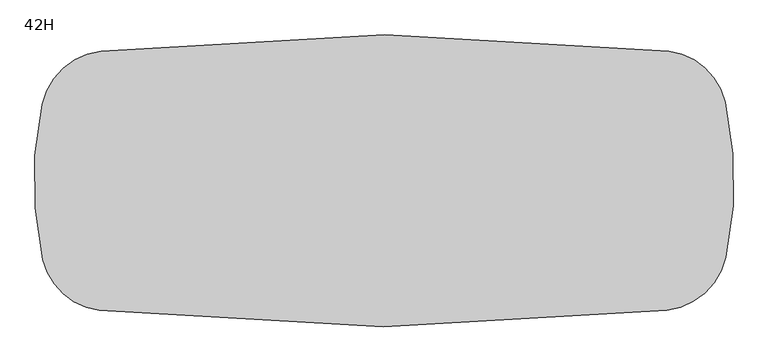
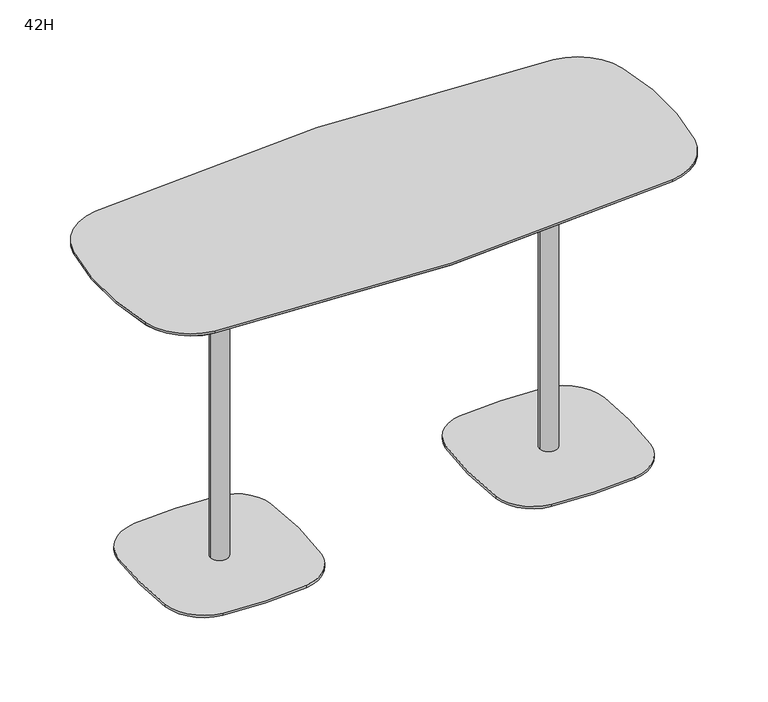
"""IFC4 building model written with IfcOpenShell, lengths in millimetres: furniture geometry, Steelcase Coalesse - Enea Lottus - Table - Rectangular : 42H."""

from ifc_helpers import new_model, si_unit, point, frame, frame_2d, origin, origin_with_axes, place, context, project, spatial, polyline, circle_curve, trimmed, segment, composite_curve, outline, extrude, source, transform, mapped, element, save
from ifc_brep_helpers import plane_surface, cylinder_surface, revolved_surface, advanced_brep


def furniture_42h_85d60476(model_context):
    return source(origin(), model_context, "Body", "SolidModel", [
        advanced_brep(
        [(533.6899315, 0.0079283, 1030.5956207), (533.6899315, 29.1924887, 1030.5956207), (533.6899315, -29.1766322, 1030.5956207), (533.6899315, 176.2649386, 1050.6538925), (533.6899315, -176.2490821, 1050.6538925), (533.6899315, 176.2649386, 1054.0282142), (533.6899315, -176.2490821, 1054.0282142), (533.6899315, 0.0079283, 1054.0282142)],
        [
            (0, 1),
            (1, 2, circle_curve(frame((533.6899315, 0.0079283, 1030.5956207), z_axis=(0.0, 0.0, -1.0), x_axis=(0.0, 1.0, 0.0)), 29.1845605)),
            (2, 0),
            (2, 1, circle_curve(frame((533.6899315, 0.0079283, 1030.5956207), z_axis=(0.0, 0.0, -1.0), x_axis=(0.0, 1.0, 0.0)), 29.1845605)),
            (1, 3),
            (3, 4, circle_curve(frame((533.6899315, 0.0079283, 1050.6538925), z_axis=(0.0, 0.0, -1.0), x_axis=(0.0, 1.0, 0.0)), 176.2570104)),
            (4, 2),
            (4, 3, circle_curve(frame((533.6899315, 0.0079283, 1050.6538925), z_axis=(0.0, 0.0, -1.0), x_axis=(0.0, 1.0, 0.0)), 176.2570104)),
            (3, 5),
            (5, 6, circle_curve(frame((533.6899315, 0.0079283, 1054.0282142), z_axis=(0.0, 0.0, -1.0), x_axis=(0.0, 1.0, 0.0)), 176.2570104)),
            (6, 4),
            (6, 5, circle_curve(frame((533.6899315, 0.0079283, 1054.0282142), z_axis=(0.0, 0.0, -1.0), x_axis=(0.0, 1.0, 0.0)), 176.2570104)),
            (5, 7),
            (7, 6),
        ],
        [
            plane_surface(frame((533.6899315, 0.0079283, 1030.5956207), z_axis=(0.0, 0.0, -1.0), x_axis=(0.0, 1.0, 0.0))),
            revolved_surface(polyline([(533.6899315, 176.2649386, 1050.6538925), (533.6899315, 29.1924887, 1030.5956207)]), (533.6899315, 0.0079283, 1050.0176504), (0.0, 0.0, -1.0)),
            cylinder_surface(frame((533.6899315, 0.0079283, 1050.0176504), z_axis=(0.0, 0.0, -1.0), x_axis=(0.0, 1.0, 0.0)), 176.2570104),
            plane_surface(frame((533.6899315, 0.0079283, 1054.0282142), z_axis=(0.0, 0.0, 1.0), x_axis=(0.0, 1.0, 0.0))),
        ],
        [
            (0, [[1, 2, 3]]),
            (0, [[-3, 4, -1]]),
            (1, [[-2, 5, 6, 7]]),
            (1, [[-4, -7, 8, -5]]),
            (2, [[-6, 9, 10, 11]]),
            (2, [[-8, -11, 12, -9]]),
            (3, [[-10, 13, 14]]),
            (3, [[-12, -14, -13]]),
        ],
    ),
        advanced_brep(
        [(-533.2930565, -29.5735072, 1030.5956207), (-533.2930565, 28.7956137, 1030.5956207), (-533.2930565, -0.3889467, 1030.5956207), (-533.2930565, -176.6459571, 1050.6538925), (-533.2930565, 175.8680636, 1050.6538925), (-533.2930565, -176.6459571, 1054.0282142), (-533.2930565, 175.8680636, 1054.0282142), (-533.2930565, -0.3889467, 1054.0282142)],
        [
            (0, 1, circle_curve(frame((-533.2930565, -0.3889467, 1030.5956207), z_axis=(0.0, 0.0, -1.0), x_axis=(0.0, 1.0, 0.0)), 29.1845605)),
            (1, 2),
            (2, 0),
            (1, 0, circle_curve(frame((-533.2930565, -0.3889467, 1030.5956207), z_axis=(0.0, 0.0, -1.0), x_axis=(0.0, 1.0, 0.0)), 29.1845605)),
            (3, 4, circle_curve(frame((-533.2930565, -0.3889467, 1050.6538925), z_axis=(0.0, 0.0, -1.0), x_axis=(0.0, 1.0, 0.0)), 176.2570104)),
            (4, 1),
            (0, 3),
            (4, 3, circle_curve(frame((-533.2930565, -0.3889467, 1050.6538925), z_axis=(0.0, 0.0, -1.0), x_axis=(0.0, 1.0, 0.0)), 176.2570104)),
            (5, 6, circle_curve(frame((-533.2930565, -0.3889467, 1054.0282142), z_axis=(0.0, 0.0, -1.0), x_axis=(0.0, 1.0, 0.0)), 176.2570104)),
            (6, 4),
            (3, 5),
            (6, 5, circle_curve(frame((-533.2930565, -0.3889467, 1054.0282142), z_axis=(0.0, 0.0, -1.0), x_axis=(0.0, 1.0, 0.0)), 176.2570104)),
            (7, 6),
            (5, 7),
        ],
        [
            plane_surface(frame((-533.2930565, -0.3889467, 1030.5956207), z_axis=(0.0, 0.0, -1.0), x_axis=(0.0, 1.0, 0.0))),
            revolved_surface(polyline([(-533.2930565, 28.7956137, 1030.5956207), (-533.2930565, 175.8680636, 1050.6538925)]), (-533.2930565, -0.3889467, 1050.0176504), (0.0, 0.0, 1.0)),
            cylinder_surface(frame((-533.2930565, -0.3889467, 1050.0176504), z_axis=(0.0, 0.0, 1.0), x_axis=(0.0, 1.0, 0.0)), 176.2570104),
            plane_surface(frame((-533.2930565, -0.3889467, 1054.0282142), z_axis=(0.0, 0.0, 1.0), x_axis=(0.0, 1.0, 0.0))),
        ],
        [
            (0, [[1, 2, 3]]),
            (0, [[4, -3, -2]]),
            (1, [[5, 6, -1, 7]]),
            (1, [[8, -7, -4, -6]]),
            (2, [[9, 10, -5, 11]]),
            (2, [[12, -11, -8, -10]]),
            (3, [[13, -9, 14]]),
            (3, [[-14, -12, -13]]),
        ],
    ),
        extrude(outline(composite_curve([segment(trimmed(circle_curve(frame_2d((714.0146629, 180.1091408)), 14.530327), [point((699.4843358, 180.1091408))], [point((728.5449899, 180.1091408))], False, "CARTESIAN"), True, "CONTINUOUS"), segment(trimmed(circle_curve(frame_2d((714.0146629, 180.1091408)), 14.530327), [point((728.5449899, 180.1091408))], [point((699.4843358, 180.1091408))], False, "CARTESIAN"), True, "CONTINUOUS")], self_intersect=False)), origin_with_axes(), (0.0, 0.0, 1.0), 12.0681503),
        extrude(outline(composite_curve([segment(trimmed(circle_curve(frame_2d((353.3678597, 180.1091408)), 14.530327), [point((338.8375326, 180.1091408))], [point((367.8981867, 180.1091408))], False, "CARTESIAN"), True, "CONTINUOUS"), segment(trimmed(circle_curve(frame_2d((353.3678597, 180.1091408)), 14.530327), [point((367.8981867, 180.1091408))], [point((338.8375326, 180.1091408))], False, "CARTESIAN"), True, "CONTINUOUS")], self_intersect=False)), origin_with_axes(), (0.0, 0.0, 1.0), 12.0681503),
        extrude(outline(composite_curve([segment(trimmed(circle_curve(frame_2d((714.0146629, -180.1091408)), 14.530327), [point((699.4843358, -180.1091408))], [point((728.5449899, -180.1091408))], False, "CARTESIAN"), True, "CONTINUOUS"), segment(trimmed(circle_curve(frame_2d((714.0146629, -180.1091408)), 14.530327), [point((728.5449899, -180.1091408))], [point((699.4843358, -180.1091408))], False, "CARTESIAN"), True, "CONTINUOUS")], self_intersect=False)), origin_with_axes(), (0.0, 0.0, 1.0), 12.0681503),
        extrude(outline(composite_curve([segment(trimmed(circle_curve(frame_2d((353.3678597, -180.1091408)), 14.530327), [point((338.8375326, -180.1091408))], [point((367.8981867, -180.1091408))], False, "CARTESIAN"), True, "CONTINUOUS"), segment(trimmed(circle_curve(frame_2d((353.3678597, -180.1091408)), 14.530327), [point((367.8981867, -180.1091408))], [point((338.8375326, -180.1091408))], False, "CARTESIAN"), True, "CONTINUOUS")], self_intersect=False)), origin_with_axes(), (0.0, 0.0, 1.0), 12.0681503),
        extrude(outline(composite_curve([segment(trimmed(circle_curve(frame_2d((653.6418748, -119.1450965)), 133.222342), [point((786.0221834, -134.099905))], [point((668.3067607, -251.5578358))], False, "CARTESIAN"), True, "CONTINUOUS"), segment(trimmed(circle_curve(frame_2d((533.6074129, 964.6745761)), 1223.6687436), [point((668.3067607, -251.5578358))], [point((397.528708, -251.4042783))], False, "CARTESIAN"), True, "CONTINUOUS"), segment(trimmed(circle_curve(frame_2d((411.982862, -122.2335093)), 129.97696), [point((397.528708, -251.4042783))], [point((282.9704132, -138.0385142))], False, "CARTESIAN"), True, "CONTINUOUS"), segment(trimmed(circle_curve(frame_2d((1412.2891802, 0.3116127)), 1137.7616777), [point((282.9704132, -138.0385142))], [point((283.9914799, 146.7559187))], False, "CARTESIAN"), True, "CONTINUOUS"), segment(trimmed(circle_curve(frame_2d((404.4486749, 131.1215074)), 121.4675703), [point((283.9914799, 146.7559187))], [point((391.3529548, 251.8810733))], False, "CARTESIAN"), True, "CONTINUOUS"), segment(trimmed(circle_curve(frame_2d((531.1125259, -1036.8838838)), 1296.3208909), [point((391.3529548, 251.8810733))], [point((663.5285015, 252.6562907))], False, "CARTESIAN"), True, "CONTINUOUS"), segment(trimmed(circle_curve(frame_2d((649.3276784, 114.3608031)), 139.022679), [point((663.5285015, 252.6562907))], [point((787.6552382, 128.2457396))], False, "CARTESIAN"), True, "CONTINUOUS"), segment(trimmed(circle_curve(frame_2d((-442.8831067, 4.7277163)), 1236.7220061), [point((787.6552382, 128.2457396))], [point((786.0221834, -134.099905))], False, "CARTESIAN"), True, "CONTINUOUS")], self_intersect=False)), frame((0.0, 0.0, 12.0681503), z_axis=(0.0, 0.0, 1.0), x_axis=(1.0, 0.0, 0.0)), (0.0, 0.0, 1.0), 7.874),
        extrude(outline(composite_curve([segment(trimmed(circle_curve(frame_2d((533.6909706, 0.2349542)), 29.1845605), [point((504.5064102, 0.2349542))], [point((562.8755311, 0.2349542))], False, "CARTESIAN"), True, "CONTINUOUS"), segment(trimmed(circle_curve(frame_2d((533.6909706, 0.2349542)), 29.1845605), [point((562.8755311, 0.2349542))], [point((504.5064102, 0.2349542))], False, "CARTESIAN"), True, "CONTINUOUS")], self_intersect=False)), frame((0.0, 0.0, 19.9421503), z_axis=(0.0, 0.0, 1.0), x_axis=(1.0, 0.0, 0.0)), (0.0, 0.0, 1.0), 1010.6534704),
        advanced_brep(
        [(739.347506, -338.2744697, 1059.247009), (892.4732941, -200.1677811, 1059.247009), (891.2541739, 205.5853505, 1059.247009), (743.9458752, 337.7402913, 1059.247009), (-739.2545007, 338.4789717, 1059.247009), (-892.4186272, 200.414007, 1059.247009), (-891.1980236, -205.8312645, 1059.247009), (-743.8530353, -337.9460632, 1059.247009), (737.8865789, -325.6587774, 1054.0282142), (-742.3865217, -325.3310191, 1054.0282142), (-878.8170663, -203.0025018, 1054.0282142), (-880.020895, 197.6596943, 1054.0282142), (-737.7970634, 325.8628758, 1054.0282142), (742.4758721, 325.1256533, 1054.0282142), (878.872445, 202.7599674, 1054.0282142), (880.0748107, -197.4168523, 1054.0282142)],
        [
            (0, 1, circle_curve(frame((718.8945265, -161.6547777, 1059.247009), z_axis=(0.0, 0.0, 1.0), x_axis=(0.1150336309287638, -0.9933615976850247, 0.0)), 177.8)),
            (1, 2, circle_curve(frame((-9.6863319, 0.0, 1059.247009), z_axis=(0.0, 0.0, 1.0), x_axis=(0.9762585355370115, -0.2166085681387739, 0.0)), 924.0990917)),
            (2, 3, circle_curve(frame((724.1008339, 167.4426787, 1059.247009), z_axis=(0.0, 0.0, 1.0), x_axis=(0.9749392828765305, 0.22247110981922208, 0.0)), 171.45)),
            (3, 4, circle_curve(frame((-0.8375458, -6053.5206925, 1059.247009), z_axis=(0.0, 0.0, 1.0), x_axis=(0.11574827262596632, 0.9932785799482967, 0.0)), 6434.5100285)),
            (4, 5, circle_curve(frame((-718.8503777, 161.8536288, 1059.247009), z_axis=(0.0, 0.0, 1.0), x_axis=(-0.11475884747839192, 0.9933933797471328, 0.0)), 177.8)),
            (5, 6, circle_curve(frame((9.6863319, 0.0, 1059.247009), z_axis=(0.0, 0.0, 1.0), x_axis=(-0.9761993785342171, 0.21687501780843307, 0.0)), 924.0990917)),
            (6, 7, circle_curve(frame((-724.0551012, -167.6429678, 1059.247009), z_axis=(0.0, 0.0, 1.0), x_axis=(-0.9748785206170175, -0.2227372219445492, 0.0)), 171.45)),
            (7, 0, circle_curve(frame((-0.8375458, 6053.5206925, 1059.247009), z_axis=(0.0, 0.0, 1.0), x_axis=(-0.11547351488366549, -0.99331055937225, 0.0)), 6434.5100285)),
            (8, 9, circle_curve(frame((-0.8375458, 6053.5206925, 1054.0282142), z_axis=(0.0, 0.0, -1.0), x_axis=(-0.11547351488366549, -0.99331055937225, 0.0)), 6421.8100285)),
            (9, 10, circle_curve(frame((-724.0551012, -167.6429678, 1054.0282142), z_axis=(0.0, 0.0, -1.0), x_axis=(-0.9748785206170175, -0.2227372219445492, 0.0)), 158.75)),
            (10, 11, circle_curve(frame((9.6863319, 0.0, 1054.0282142), z_axis=(0.0, 0.0, -1.0), x_axis=(-0.9761993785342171, 0.21687501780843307, 0.0)), 911.3990917)),
            (11, 12, circle_curve(frame((-718.8503777, 161.8536288, 1054.0282142), z_axis=(0.0, 0.0, -1.0), x_axis=(-0.11475884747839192, 0.9933933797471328, 0.0)), 165.1)),
            (12, 13, circle_curve(frame((-0.8375458, -6053.5206925, 1054.0282142), z_axis=(0.0, 0.0, -1.0), x_axis=(0.11574827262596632, 0.9932785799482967, 0.0)), 6421.8100285)),
            (13, 14, circle_curve(frame((724.1008339, 167.4426787, 1054.0282142), z_axis=(0.0, 0.0, -1.0), x_axis=(0.9749392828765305, 0.22247110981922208, 0.0)), 158.75)),
            (14, 15, circle_curve(frame((-9.6863319, 0.0, 1054.0282142), z_axis=(0.0, 0.0, -1.0), x_axis=(0.9762585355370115, -0.2166085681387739, 0.0)), 911.3990917)),
            (15, 8, circle_curve(frame((718.8945265, -161.6547777, 1054.0282142), z_axis=(0.0, 0.0, -1.0), x_axis=(0.1150336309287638, -0.9933615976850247, 0.0)), 165.1)),
            (15, 1),
            (0, 8),
            (14, 2),
            (13, 3),
            (12, 4),
            (11, 5),
            (10, 6),
            (9, 7),
        ],
        [
            plane_surface(frame((0.0370828, -0.0001197, 1059.247009), z_axis=(0.0, 0.0, 1.0), x_axis=(-0.9932785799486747, 0.11574827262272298, 0.0))),
            plane_surface(frame((0.03602, -0.00012, 1054.0282142), z_axis=(0.0, 0.0, -1.0), x_axis=(-0.9932785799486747, 0.11574827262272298, 0.0))),
            revolved_surface(polyline([(880.074810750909, -197.4168522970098, 1054.0282142), (892.4732941, -200.1677811, 1059.247009)]), (718.8945265, -161.6547777, 986.1838815), (0.0, 0.0, 1.0)),
            revolved_surface(polyline([(878.8724450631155, 202.75996741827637, 1054.0282142), (891.2541739, 205.5853505, 1059.247009)]), (-9.6863319, 0.0, 679.5081463), (0.0, 0.0, 1.0)),
            revolved_surface(polyline([(742.4758721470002, 325.12565338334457, 1054.0282142), (743.9458752, 337.7402913, 1059.247009)]), (724.1008339, 167.4426787, 988.7932789), (0.0, 0.0, 1.0)),
            revolved_surface(polyline([(-737.797063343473, 325.8628758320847, 1054.0282142), (-739.2545007, 338.47897170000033, 1059.2470090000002)]), (-0.8375458, -6053.5206925, -1584.8780007), (0.0, 0.0, 1.0)),
            revolved_surface(polyline([(-880.020895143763, 197.65969428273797, 1054.0282142), (-892.4186272, 200.414007, 1059.247009)]), (-718.8503777, 161.8536288, 986.1838815), (0.0, 0.0, 1.0)),
            revolved_surface(polyline([(-878.8170664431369, -203.00250179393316, 1054.0282142), (-891.1980236, -205.8312645, 1059.247009)]), (9.6863319, 0.0, 679.5081463), (0.0, 0.0, 1.0)),
            revolved_surface(polyline([(-742.3865216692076, -325.331019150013, 1054.0282142), (-743.8530353, -337.9460632, 1059.247009)]), (-724.0551012, -167.6429678, 988.7932789), (0.0, 0.0, 1.0)),
            revolved_surface(polyline([(737.8865788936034, -325.6587774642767, 1054.0282142), (739.347506, -338.2744696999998, 1059.2470090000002)]), (-0.8375458, 6053.5206925, -1584.8780007), (0.0, 0.0, 1.0)),
        ],
        [
            (0, [[1, 2, 3, 4, 5, 6, 7, 8]]),
            (1, [[9, 10, 11, 12, 13, 14, 15, 16]]),
            (2, [[-16, 17, -1, 18]]),
            (3, [[-15, 19, -2, -17]]),
            (4, [[-14, 20, -3, -19]]),
            (5, [[-13, 21, -4, -20]]),
            (6, [[-12, 22, -5, -21]]),
            (7, [[-11, 23, -6, -22]]),
            (8, [[-10, 24, -7, -23]]),
            (9, [[-9, -18, -8, -24]]),
        ],
    ),
        extrude(outline(composite_curve([segment(trimmed(circle_curve(frame_2d((9.6863319, 0.0)), 924.0990917), [point((-891.1980236, -205.8312645))], [point((-892.4186272, 200.414007))], False, "CARTESIAN"), True, "CONTINUOUS"), segment(trimmed(circle_curve(frame_2d((-718.8503777, 161.8536288)), 177.8), [point((-892.4186272, 200.414007))], [point((-739.2545007, 338.4789717))], False, "CARTESIAN"), True, "CONTINUOUS"), segment(trimmed(circle_curve(frame_2d((-0.8375458, -6053.5206925)), 6434.5100285), [point((-739.2545007, 338.4789717))], [point((743.9458752, 337.7402913))], False, "CARTESIAN"), True, "CONTINUOUS"), segment(trimmed(circle_curve(frame_2d((724.1008339, 167.4426787)), 171.45), [point((743.9458752, 337.7402913))], [point((891.2541739, 205.5853505))], False, "CARTESIAN"), True, "CONTINUOUS"), segment(trimmed(circle_curve(frame_2d((-9.6863319, 0.0)), 924.0990917), [point((891.2541739, 205.5853505))], [point((892.4732941, -200.1677811))], False, "CARTESIAN"), True, "CONTINUOUS"), segment(trimmed(circle_curve(frame_2d((718.8945265, -161.6547777)), 177.8), [point((892.4732941, -200.1677811))], [point((739.347506, -338.2744697))], False, "CARTESIAN"), True, "CONTINUOUS"), segment(trimmed(circle_curve(frame_2d((-0.8375458, 6053.5206925)), 6434.5100285), [point((739.347506, -338.2744697))], [point((-743.8530353, -337.9460632))], False, "CARTESIAN"), True, "CONTINUOUS"), segment(trimmed(circle_curve(frame_2d((-724.0551012, -167.6429678)), 171.45), [point((-743.8530353, -337.9460632))], [point((-891.1980236, -205.8312645))], False, "CARTESIAN"), True, "CONTINUOUS")], self_intersect=False)), frame((0.0, 0.0, 1059.247009), z_axis=(0.0, 0.0, 1.0), x_axis=(1.0, 0.0, 0.0)), (0.0, 0.0, 1.0), 7.552991),
        extrude(outline(composite_curve([segment(trimmed(circle_curve(frame_2d((-714.0146629, 180.1091408)), 14.530327), [point((-699.4843358, 180.1091408))], [point((-728.5449899, 180.1091408))], False, "CARTESIAN"), True, "CONTINUOUS"), segment(trimmed(circle_curve(frame_2d((-714.0146629, 180.1091408)), 14.530327), [point((-728.5449899, 180.1091408))], [point((-699.4843358, 180.1091408))], False, "CARTESIAN"), True, "CONTINUOUS")], self_intersect=False)), origin_with_axes(), (0.0, 0.0, 1.0), 12.0681503),
        extrude(outline(composite_curve([segment(trimmed(circle_curve(frame_2d((-353.3678597, 180.1091408)), 14.530327), [point((-338.8375326, 180.1091408))], [point((-367.8981867, 180.1091408))], False, "CARTESIAN"), True, "CONTINUOUS"), segment(trimmed(circle_curve(frame_2d((-353.3678597, 180.1091408)), 14.530327), [point((-367.8981867, 180.1091408))], [point((-338.8375326, 180.1091408))], False, "CARTESIAN"), True, "CONTINUOUS")], self_intersect=False)), origin_with_axes(), (0.0, 0.0, 1.0), 12.0681503),
        extrude(outline(composite_curve([segment(trimmed(circle_curve(frame_2d((-714.0146629, -180.1091408)), 14.530327), [point((-699.4843358, -180.1091408))], [point((-728.5449899, -180.1091408))], False, "CARTESIAN"), True, "CONTINUOUS"), segment(trimmed(circle_curve(frame_2d((-714.0146629, -180.1091408)), 14.530327), [point((-728.5449899, -180.1091408))], [point((-699.4843358, -180.1091408))], False, "CARTESIAN"), True, "CONTINUOUS")], self_intersect=False)), origin_with_axes(), (0.0, 0.0, 1.0), 12.0681503),
        extrude(outline(composite_curve([segment(trimmed(circle_curve(frame_2d((-353.3678597, -180.1091408)), 14.530327), [point((-338.8375326, -180.1091408))], [point((-367.8981867, -180.1091408))], False, "CARTESIAN"), True, "CONTINUOUS"), segment(trimmed(circle_curve(frame_2d((-353.3678597, -180.1091408)), 14.530327), [point((-367.8981867, -180.1091408))], [point((-338.8375326, -180.1091408))], False, "CARTESIAN"), True, "CONTINUOUS")], self_intersect=False)), origin_with_axes(), (0.0, 0.0, 1.0), 12.0681503),
        extrude(outline(composite_curve([segment(trimmed(circle_curve(frame_2d((442.8831067, 4.7277163)), 1236.7220061), [point((-786.0221834, -134.099905))], [point((-787.6552382, 128.2457396))], False, "CARTESIAN"), True, "CONTINUOUS"), segment(trimmed(circle_curve(frame_2d((-649.3276784, 114.3608031)), 139.022679), [point((-787.6552382, 128.2457396))], [point((-663.5285015, 252.6562907))], False, "CARTESIAN"), True, "CONTINUOUS"), segment(trimmed(circle_curve(frame_2d((-531.1125259, -1036.8838838)), 1296.3208909), [point((-663.5285015, 252.6562907))], [point((-391.3529548, 251.8810733))], False, "CARTESIAN"), True, "CONTINUOUS"), segment(trimmed(circle_curve(frame_2d((-404.4486749, 131.1215074)), 121.4675703), [point((-391.3529548, 251.8810733))], [point((-283.9914799, 146.7559187))], False, "CARTESIAN"), True, "CONTINUOUS"), segment(trimmed(circle_curve(frame_2d((-1412.2891802, 0.3116127)), 1137.7616777), [point((-283.9914799, 146.7559187))], [point((-282.9704132, -138.0385142))], False, "CARTESIAN"), True, "CONTINUOUS"), segment(trimmed(circle_curve(frame_2d((-411.982862, -122.2335093)), 129.97696), [point((-282.9704132, -138.0385142))], [point((-397.528708, -251.4042783))], False, "CARTESIAN"), True, "CONTINUOUS"), segment(trimmed(circle_curve(frame_2d((-533.6074129, 964.6745761)), 1223.6687436), [point((-397.528708, -251.4042783))], [point((-668.3067607, -251.5578358))], False, "CARTESIAN"), True, "CONTINUOUS"), segment(trimmed(circle_curve(frame_2d((-653.6418748, -119.1450965)), 133.222342), [point((-668.3067607, -251.5578358))], [point((-786.0221834, -134.099905))], False, "CARTESIAN"), True, "CONTINUOUS")], self_intersect=False)), frame((0.0, 0.0, 12.0681503), z_axis=(0.0, 0.0, 1.0), x_axis=(1.0, 0.0, 0.0)), (0.0, 0.0, 1.0), 7.874),
        extrude(outline(composite_curve([segment(trimmed(circle_curve(frame_2d((-533.6909706, 0.2349542)), 29.1845605), [point((-504.5064102, 0.2349542))], [point((-562.8755311, 0.2349542))], False, "CARTESIAN"), True, "CONTINUOUS"), segment(trimmed(circle_curve(frame_2d((-533.6909706, 0.2349542)), 29.1845605), [point((-562.8755311, 0.2349542))], [point((-504.5064102, 0.2349542))], False, "CARTESIAN"), True, "CONTINUOUS")], self_intersect=False)), frame((0.0, 0.0, 19.9421503), z_axis=(0.0, 0.0, 1.0), x_axis=(1.0, 0.0, 0.0)), (0.0, 0.0, 1.0), 1010.6534704),
    ])


if __name__ == "__main__":
    model = new_model("IFC4")
    model_context = context("Model", 3, world=origin())
    ifc_project = project(units=[si_unit("LENGTHUNIT", "METRE", prefix="MILLI")], contexts=[model_context])
    site = spatial("IfcSite", under=ifc_project)
    building = spatial("IfcBuilding", under=site)
    placement = place(None, origin())
    furniture_42h_shape = furniture_42h_85d60476(model_context)
    element("IfcFurniture", 1, ObjectType="Steelcase Coalesse - Enea Lottus - Table - Rectangular : 42H", at=placement, inside=building, context=model_context, shape_type="MappedRepresentation", body=[
        mapped(furniture_42h_shape, transform((0.0, 0.0, 0.0), x_axis=(1.0, 0.0, 0.0), y_axis=(0.0, 1.0, 0.0), z_axis=(0.0, 0.0, 1.0))),
    ])
    save(model, "model.ifc")
